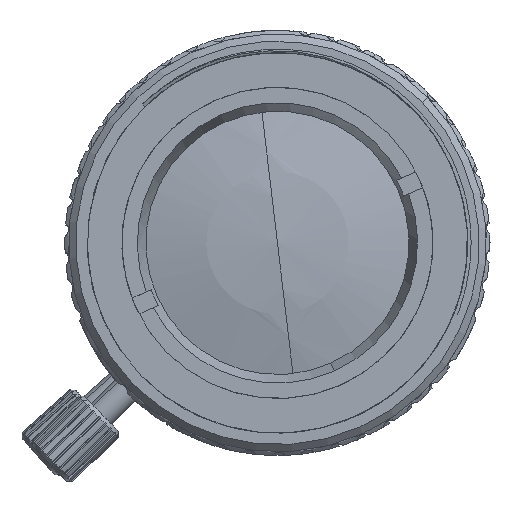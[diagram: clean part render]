
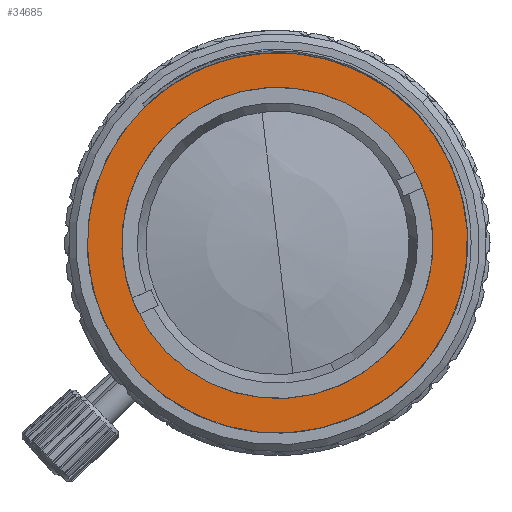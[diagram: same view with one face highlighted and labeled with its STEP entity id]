
A CAD part, left-side view. The second image highlights one B-rep face of the part: STEP entity #34685.
In plain terms, the highlighted planar face has unit normal (-1, 0, 0).
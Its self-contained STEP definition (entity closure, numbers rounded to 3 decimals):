
#2199 = DIRECTION ( 'NONE',  ( 1., 0., 0. ) ) ;
#2452 = FACE_BOUND ( 'NONE', #48718, .T. ) ;
#4234 = CARTESIAN_POINT ( 'NONE',  ( -6.35, 17.294, 67.586 ) ) ;
#5305 = AXIS2_PLACEMENT_3D ( 'NONE', #27941, #43888, #35790 ) ;
#6233 = VERTEX_POINT ( 'NONE', #22814 ) ;
#7509 = ORIENTED_EDGE ( 'NONE', *, *, #11799, .T. ) ;
#8015 = VERTEX_POINT ( 'NONE', #11711 ) ;
#10281 = AXIS2_PLACEMENT_3D ( 'NONE', #37927, #2199, #45772 ) ;
#11711 = CARTESIAN_POINT ( 'NONE',  ( -6.35, 34.521, 50.876 ) ) ;
#11799 = EDGE_CURVE ( 'NONE', #26840, #6233, #38011, .T. ) ;
#12711 = AXIS2_PLACEMENT_3D ( 'NONE', #33329, #14045, #25767 ) ;
#14045 = DIRECTION ( 'NONE',  ( -1., 0., 0. ) ) ;
#14098 = DIRECTION ( 'NONE',  ( 0., 0.718, -0.696 ) ) ;
#18350 = PLANE ( 'NONE',  #10281 ) ;
#18364 = CIRCLE ( 'NONE', #32552, 10.8 ) ;
#18404 = VERTEX_POINT ( 'NONE', #30638 ) ;
#19446 = CIRCLE ( 'NONE', #5305, 10.8 ) ;
#22814 = CARTESIAN_POINT ( 'NONE',  ( -6.35, 36.244, 49.205 ) ) ;
#24952 = ORIENTED_EDGE ( 'NONE', *, *, #39747, .F. ) ;
#25767 = DIRECTION ( 'NONE',  ( 0., 0.718, -0.696 ) ) ;
#25895 = DIRECTION ( 'NONE',  ( 0., 0.718, -0.696 ) ) ;
#26840 = VERTEX_POINT ( 'NONE', #4234 ) ;
#27364 = EDGE_CURVE ( 'NONE', #6233, #26840, #41010, .T. ) ;
#27941 = CARTESIAN_POINT ( 'NONE',  ( -6.35, 26.769, 58.396 ) ) ;
#29236 = EDGE_CURVE ( 'NONE', #8015, #18404, #19446, .T. ) ;
#29556 = DIRECTION ( 'NONE',  ( -1., 0., 0. ) ) ;
#30061 = CARTESIAN_POINT ( 'NONE',  ( -6.35, 26.769, 58.396 ) ) ;
#30638 = CARTESIAN_POINT ( 'NONE',  ( -6.35, 19.017, 65.915 ) ) ;
#32376 = EDGE_LOOP ( 'NONE', ( #38752, #7509 ) ) ;
#32552 = AXIS2_PLACEMENT_3D ( 'NONE', #33928, #49873, #14098 ) ;
#33329 = CARTESIAN_POINT ( 'NONE',  ( -6.35, 26.769, 58.396 ) ) ;
#33928 = CARTESIAN_POINT ( 'NONE',  ( -6.35, 26.769, 58.396 ) ) ;
#34685 = ADVANCED_FACE ( 'NONE', ( #50203, #2452 ), #18350, .F. ) ;
#35790 = DIRECTION ( 'NONE',  ( 0., 0.718, -0.696 ) ) ;
#37927 = CARTESIAN_POINT ( 'NONE',  ( -6.35, 17.294, 67.586 ) ) ;
#38011 = CIRCLE ( 'NONE', #47298, 13.2 ) ;
#38752 = ORIENTED_EDGE ( 'NONE', *, *, #27364, .T. ) ;
#39747 = EDGE_CURVE ( 'NONE', #18404, #8015, #18364, .T. ) ;
#41010 = CIRCLE ( 'NONE', #12711, 13.2 ) ;
#43888 = DIRECTION ( 'NONE',  ( -1., 0., 0. ) ) ;
#45772 = DIRECTION ( 'NONE',  ( 0., -0.696, -0.718 ) ) ;
#47298 = AXIS2_PLACEMENT_3D ( 'NONE', #30061, #29556, #25895 ) ;
#48049 = ORIENTED_EDGE ( 'NONE', *, *, #29236, .F. ) ;
#48718 = EDGE_LOOP ( 'NONE', ( #48049, #24952 ) ) ;
#49873 = DIRECTION ( 'NONE',  ( -1., 0., 0. ) ) ;
#50203 = FACE_OUTER_BOUND ( 'NONE', #32376, .T. ) ;
